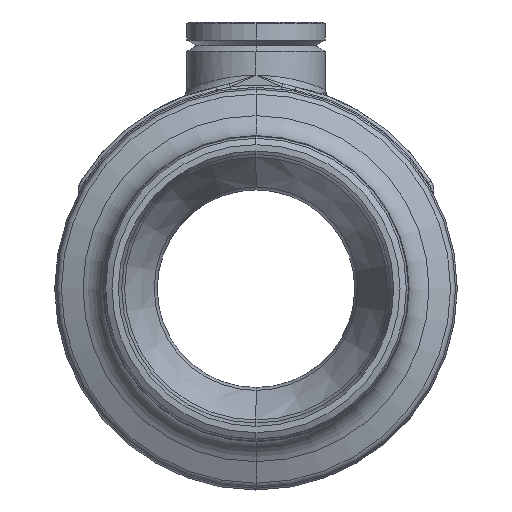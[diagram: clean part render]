
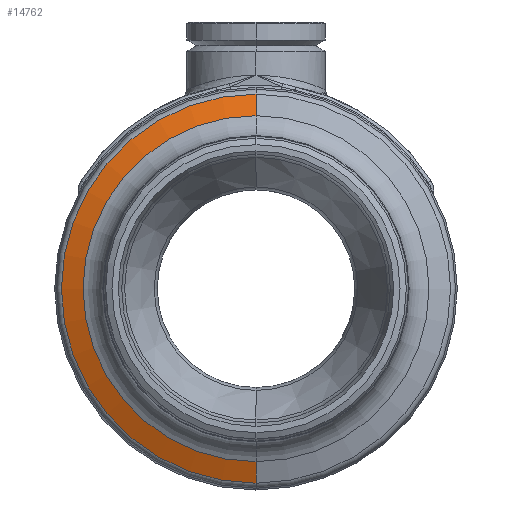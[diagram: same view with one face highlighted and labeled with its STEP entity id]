
A CAD part, left-side view. The second image highlights one B-rep face of the part: STEP entity #14762.
In plain terms, the highlighted conical face has half-angle 68.199 degrees and reference radius 46.511 mm.
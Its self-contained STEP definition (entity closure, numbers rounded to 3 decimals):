
#3963=CARTESIAN_POINT('',(-38.803,0.,0.));
#3964=DIRECTION('',(1.,0.,0.));
#3965=DIRECTION('',(0.,0.,-1.));
#3966=AXIS2_PLACEMENT_3D('',#3963,#3964,#3965);
#3968=DIRECTION('',(0.371,0.,0.928));
#3969=VECTOR('',#3968,5.885);
#3970=CARTESIAN_POINT('',(-40.988,0.,43.779));
#3971=LINE('',#3970,#3969);
#3972=CARTESIAN_POINT('',(-40.988,0.,0.));
#3973=DIRECTION('',(-1.,0.,0.));
#3974=DIRECTION('',(0.,0.,1.));
#3975=AXIS2_PLACEMENT_3D('',#3972,#3973,#3974);
#3977=DIRECTION('',(0.371,0.,-0.928));
#3978=VECTOR('',#3977,5.885);
#3979=CARTESIAN_POINT('',(-40.988,0.,-43.779));
#3980=LINE('',#3979,#3978);
#5574=CARTESIAN_POINT('',(-38.803,0.,49.243));
#5575=CARTESIAN_POINT('',(-38.803,0.,-49.243));
#5576=VERTEX_POINT('',#5574);
#5577=VERTEX_POINT('',#5575);
#5578=CARTESIAN_POINT('',(-40.988,0.,43.779));
#5579=VERTEX_POINT('',#5578);
#5580=CARTESIAN_POINT('',(-40.988,0.,-43.779));
#5581=VERTEX_POINT('',#5580);
#14748=CARTESIAN_POINT('',(-39.896,0.,0.));
#14749=DIRECTION('',(1.,0.,0.));
#14750=DIRECTION('',(0.,0.,1.));
#14751=AXIS2_PLACEMENT_3D('',#14748,#14749,#14750);
#14752=CONICAL_SURFACE('',#14751,46.511,68.199);
#14753=ORIENTED_EDGE('',*,*,#14742,.T.);
#14755=ORIENTED_EDGE('',*,*,#14754,.F.);
#14757=ORIENTED_EDGE('',*,*,#14756,.T.);
#14759=ORIENTED_EDGE('',*,*,#14758,.T.);
#14760=EDGE_LOOP('',(#14753,#14755,#14757,#14759));
#14761=FACE_OUTER_BOUND('',#14760,.F.);
#14762=ADVANCED_FACE('',(#14761),#14752,.T.);
#3967=CIRCLE('',#3966,49.243);
#3976=CIRCLE('',#3975,43.779);
#14742=EDGE_CURVE('',#5577,#5576,#3967,.T.);
#14754=EDGE_CURVE('',#5579,#5576,#3971,.T.);
#14756=EDGE_CURVE('',#5579,#5581,#3976,.T.);
#14758=EDGE_CURVE('',#5581,#5577,#3980,.T.);
